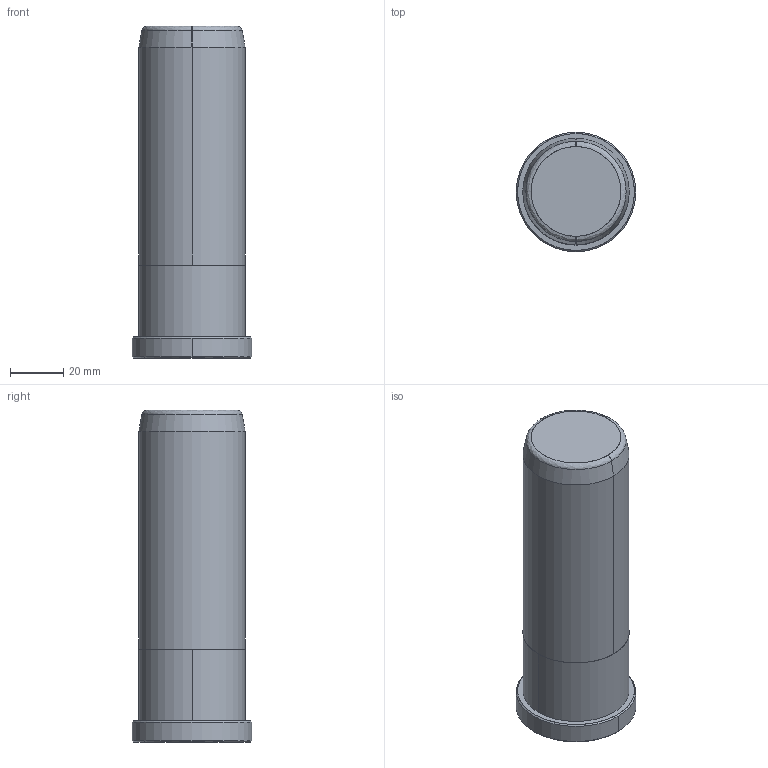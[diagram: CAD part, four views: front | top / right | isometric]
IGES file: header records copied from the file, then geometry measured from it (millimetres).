
Start section: START RECORD GO HERE.
Global section: file name: B80840125.igs; native system: DASSAULT SYSTEMES CATIA V5 R20 - www.3ds.com; preprocessor: CATIA Version 5 Release 20 ; author: Utente; organization: NB04-ASUS; date: 20200419.164603; units: millimetre
Bounding box: 45 x 45 x 125 mm (x, y, z)
Surface area: 18674 mm2 (no closed solid volume)
Topology: 0 solids, 0 shells, 20 faces, 80 edges, 80 vertices
Faces by surface type: revolution 16, plane 4
